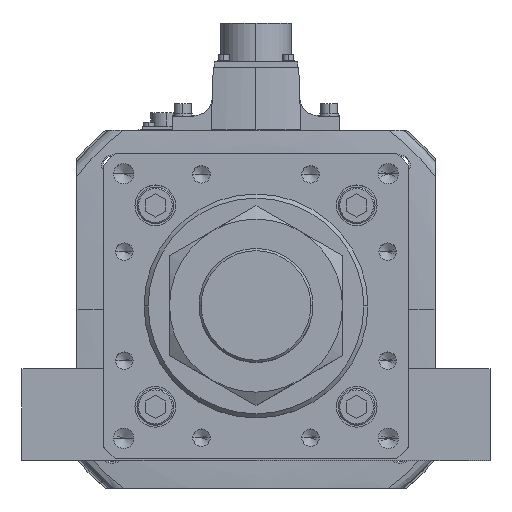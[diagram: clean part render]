
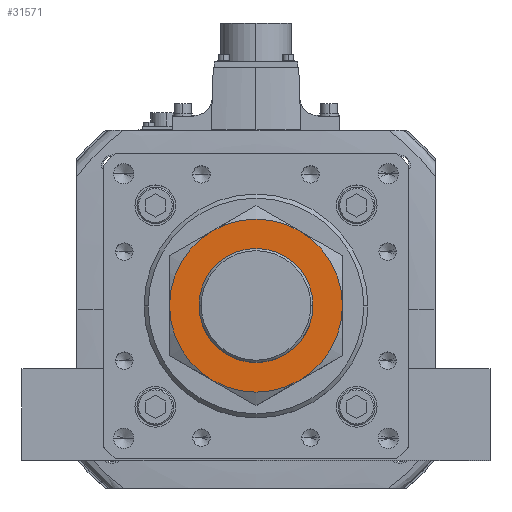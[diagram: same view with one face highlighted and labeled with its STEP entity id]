
A CAD part, top view. The second image highlights one B-rep face of the part: STEP entity #31571.
In plain terms, the highlighted planar face has unit normal (0, 0, 1).
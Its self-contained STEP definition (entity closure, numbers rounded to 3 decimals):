
#259 = CARTESIAN_POINT ( 'NONE',  ( 21.25, -36.806, 34. ) ) ;
#359 = AXIS2_PLACEMENT_3D ( 'NONE', #6828, #20294, #24780 ) ;
#4385 = CARTESIAN_POINT ( 'NONE',  ( -21.25, -36.806, 34. ) ) ;
#6814 = DIRECTION ( 'NONE',  ( 1., 0., 0. ) ) ;
#6828 = CARTESIAN_POINT ( 'NONE',  ( 0., 0., 34. ) ) ;
#7903 = CIRCLE ( 'NONE', #54166, 42.5 ) ;
#8093 = VERTEX_POINT ( 'NONE', #4385 ) ;
#8318 = CARTESIAN_POINT ( 'NONE',  ( -28., 0., 34. ) ) ;
#8585 = VERTEX_POINT ( 'NONE', #56992 ) ;
#9070 = CARTESIAN_POINT ( 'NONE',  ( 0., 0., 34. ) ) ;
#10075 = CIRCLE ( 'NONE', #359, 42.5 ) ;
#10644 = AXIS2_PLACEMENT_3D ( 'NONE', #45356, #40692, #14046 ) ;
#11545 = ORIENTED_EDGE ( 'NONE', *, *, #50017, .F. ) ;
#12085 = VERTEX_POINT ( 'NONE', #8318 ) ;
#12271 = DIRECTION ( 'NONE',  ( 1., 0., 0. ) ) ;
#13916 = EDGE_CURVE ( 'NONE', #45941, #41518, #41898, .T. ) ;
#13969 = ORIENTED_EDGE ( 'NONE', *, *, #34526, .F. ) ;
#14046 = DIRECTION ( 'NONE',  ( 1., 0., 0. ) ) ;
#14751 = FACE_OUTER_BOUND ( 'NONE', #19555, .T. ) ;
#16050 = VERTEX_POINT ( 'NONE', #43568 ) ;
#16376 = CARTESIAN_POINT ( 'NONE',  ( 0., 0., 34. ) ) ;
#16970 = EDGE_CURVE ( 'NONE', #8093, #29075, #10075, .T. ) ;
#17553 = CARTESIAN_POINT ( 'NONE',  ( 21.25, 36.806, 34. ) ) ;
#19505 = ORIENTED_EDGE ( 'NONE', *, *, #32585, .F. ) ;
#19555 = EDGE_LOOP ( 'NONE', ( #25099, #44473, #46856, #11545, #26548, #19505 ) ) ;
#20294 = DIRECTION ( 'NONE',  ( 0., 0., -1. ) ) ;
#20745 = AXIS2_PLACEMENT_3D ( 'NONE', #46357, #55255, #6814 ) ;
#22326 = AXIS2_PLACEMENT_3D ( 'NONE', #31602, #22686, #32380 ) ;
#22686 = DIRECTION ( 'NONE',  ( 0., 0., -1. ) ) ;
#23369 = CIRCLE ( 'NONE', #48930, 42.5 ) ;
#23441 = CARTESIAN_POINT ( 'NONE',  ( 0., 0., 34. ) ) ;
#24579 = EDGE_LOOP ( 'NONE', ( #30530, #13969 ) ) ;
#24780 = DIRECTION ( 'NONE',  ( 1., 0., 0. ) ) ;
#25099 = ORIENTED_EDGE ( 'NONE', *, *, #29100, .F. ) ;
#26548 = ORIENTED_EDGE ( 'NONE', *, *, #16970, .F. ) ;
#29075 = VERTEX_POINT ( 'NONE', #53952 ) ;
#29100 = EDGE_CURVE ( 'NONE', #16050, #47293, #23369, .T. ) ;
#29402 = DIRECTION ( 'NONE',  ( 1., 0., 0. ) ) ;
#30478 = DIRECTION ( 'NONE',  ( 1., 0., 0. ) ) ;
#30530 = ORIENTED_EDGE ( 'NONE', *, *, #37776, .F. ) ;
#31079 = DIRECTION ( 'NONE',  ( 0., 0., 1. ) ) ;
#31571 = ADVANCED_FACE ( 'NONE', ( #14751, #51656 ), #57296, .T. ) ;
#31602 = CARTESIAN_POINT ( 'NONE',  ( 0., 0., 34. ) ) ;
#31965 = DIRECTION ( 'NONE',  ( 0., 0., -1. ) ) ;
#32380 = DIRECTION ( 'NONE',  ( -1., 0., 0. ) ) ;
#32585 = EDGE_CURVE ( 'NONE', #47293, #8093, #7903, .T. ) ;
#32947 = CARTESIAN_POINT ( 'NONE',  ( -21.25, 36.806, 34. ) ) ;
#33499 = EDGE_CURVE ( 'NONE', #41518, #16050, #43303, .T. ) ;
#33852 = CARTESIAN_POINT ( 'NONE',  ( 0., 0., 34. ) ) ;
#34526 = EDGE_CURVE ( 'NONE', #8585, #12085, #56341, .T. ) ;
#35202 = AXIS2_PLACEMENT_3D ( 'NONE', #9070, #31079, #30478 ) ;
#36444 = DIRECTION ( 'NONE',  ( 1., 0., 0. ) ) ;
#37776 = EDGE_CURVE ( 'NONE', #12085, #8585, #56832, .T. ) ;
#40520 = CARTESIAN_POINT ( 'NONE',  ( 0., 0., 34. ) ) ;
#40692 = DIRECTION ( 'NONE',  ( 0., 0., 1. ) ) ;
#41518 = VERTEX_POINT ( 'NONE', #17553 ) ;
#41898 = CIRCLE ( 'NONE', #20745, 42.5 ) ;
#43303 = CIRCLE ( 'NONE', #50369, 42.5 ) ;
#43568 = CARTESIAN_POINT ( 'NONE',  ( 42.5, 0., 34. ) ) ;
#44449 = DIRECTION ( 'NONE',  ( 1., 0., 0. ) ) ;
#44473 = ORIENTED_EDGE ( 'NONE', *, *, #33499, .F. ) ;
#45356 = CARTESIAN_POINT ( 'NONE',  ( 0., 0., 34. ) ) ;
#45941 = VERTEX_POINT ( 'NONE', #32947 ) ;
#46357 = CARTESIAN_POINT ( 'NONE',  ( 0., 0., 34. ) ) ;
#46856 = ORIENTED_EDGE ( 'NONE', *, *, #13916, .F. ) ;
#47293 = VERTEX_POINT ( 'NONE', #259 ) ;
#48930 = AXIS2_PLACEMENT_3D ( 'NONE', #23441, #31965, #36444 ) ;
#49115 = DIRECTION ( 'NONE',  ( 0., 0., -1. ) ) ;
#49625 = CIRCLE ( 'NONE', #22326, 42.5 ) ;
#50017 = EDGE_CURVE ( 'NONE', #29075, #45941, #49625, .T. ) ;
#50369 = AXIS2_PLACEMENT_3D ( 'NONE', #33852, #52519, #12271 ) ;
#51415 = DIRECTION ( 'NONE',  ( 0., 0., 1. ) ) ;
#51656 = FACE_BOUND ( 'NONE', #24579, .T. ) ;
#52519 = DIRECTION ( 'NONE',  ( 0., 0., -1. ) ) ;
#53952 = CARTESIAN_POINT ( 'NONE',  ( -42.5, 0., 34. ) ) ;
#54166 = AXIS2_PLACEMENT_3D ( 'NONE', #40520, #49115, #44449 ) ;
#55255 = DIRECTION ( 'NONE',  ( 0., 0., -1. ) ) ;
#56341 = CIRCLE ( 'NONE', #57021, 28. ) ;
#56832 = CIRCLE ( 'NONE', #10644, 28. ) ;
#56992 = CARTESIAN_POINT ( 'NONE',  ( 28., 0., 34. ) ) ;
#57021 = AXIS2_PLACEMENT_3D ( 'NONE', #16376, #51415, #29402 ) ;
#57296 = PLANE ( 'NONE',  #35202 ) ;
